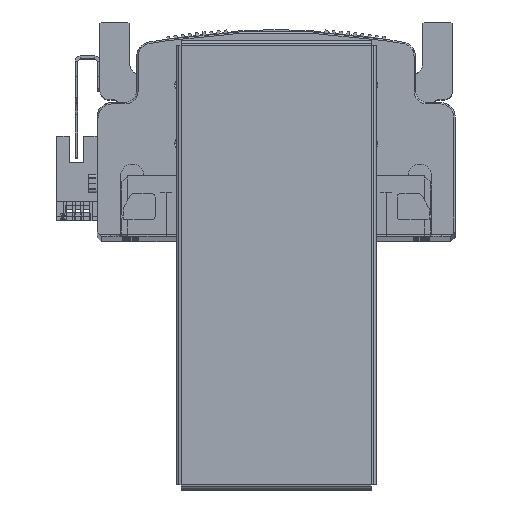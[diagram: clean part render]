
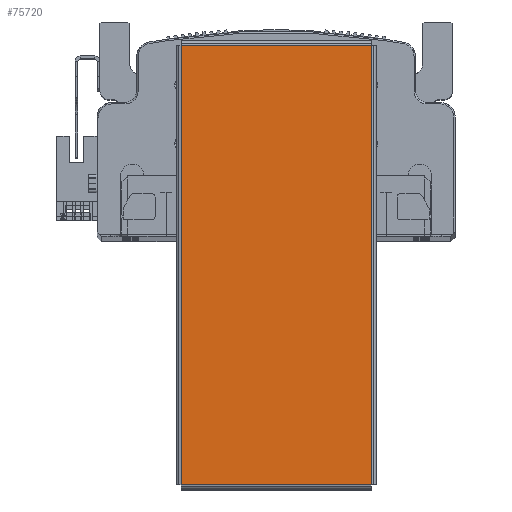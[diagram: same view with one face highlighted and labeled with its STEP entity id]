
A CAD part, top view. The second image highlights one B-rep face of the part: STEP entity #75720.
In plain terms, the highlighted planar face has unit normal (0, 0, 1) as drawn and (0, 0, -1) by its records, which use the part's own axes.
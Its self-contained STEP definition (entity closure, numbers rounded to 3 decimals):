
#3650 = CARTESIAN_POINT ( 'NONE',  ( 74.763, -32.363, -1. ) ) ;
#3708 = CARTESIAN_POINT ( 'NONE',  ( -74.763, 32.363, -1. ) ) ;
#3768 = CARTESIAN_POINT ( 'NONE',  ( -74.763, -32.363, -1. ) ) ;
#3790 = CARTESIAN_POINT ( 'NONE',  ( 74.763, 32.363, -1. ) ) ;
#10984 = EDGE_LOOP ( 'NONE', ( #83725, #83750, #83730, #83747 ) ) ;
#15002 = EDGE_CURVE ( 'NONE', #32229, #32252, #43956, .T. ) ;
#15057 = EDGE_CURVE ( 'NONE', #32167, #32264, #44076, .T. ) ;
#15171 = EDGE_CURVE ( 'NONE', #32252, #32167, #44144, .T. ) ;
#15224 = EDGE_CURVE ( 'NONE', #32264, #32229, #44243, .T. ) ;
#27223 = FACE_OUTER_BOUND ( 'NONE', #10984, .T. ) ;
#32167 = VERTEX_POINT ( 'NONE', #3650 ) ;
#32229 = VERTEX_POINT ( 'NONE', #3708 ) ;
#32252 = VERTEX_POINT ( 'NONE', #3790 ) ;
#32264 = VERTEX_POINT ( 'NONE', #3768 ) ;
#41044 = CARTESIAN_POINT ( 'NONE',  ( -74.793, 32.363, -1. ) ) ;
#41062 = DIRECTION ( 'NONE',  ( 1., 0., 0. ) ) ;
#41269 = DIRECTION ( 'NONE',  ( -1., 0., 0. ) ) ;
#41288 = CARTESIAN_POINT ( 'NONE',  ( 74.793, -32.363, -1. ) ) ;
#41647 = CARTESIAN_POINT ( 'NONE',  ( 74.763, 32.393, -1. ) ) ;
#41658 = DIRECTION ( 'NONE',  ( 0., -1., 0. ) ) ;
#41854 = CARTESIAN_POINT ( 'NONE',  ( -74.763, -32.393, -1. ) ) ;
#41904 = DIRECTION ( 'NONE',  ( 0., 1., 0. ) ) ;
#43956 = LINE ( 'NONE', #41044, #43960 ) ;
#43960 = VECTOR ( 'NONE', #41062, 1000. ) ;
#44076 = LINE ( 'NONE', #41288, #44101 ) ;
#44101 = VECTOR ( 'NONE', #41269, 1000. ) ;
#44144 = LINE ( 'NONE', #41647, #44171 ) ;
#44171 = VECTOR ( 'NONE', #41658, 1000. ) ;
#44243 = LINE ( 'NONE', #41854, #44306 ) ;
#44306 = VECTOR ( 'NONE', #41904, 1000. ) ;
#58001 = AXIS2_PLACEMENT_3D ( 'NONE', #87873, #87854, #87856 ) ;
#75720 = ADVANCED_FACE ( 'NONE', ( #27223 ), #87852, .F. ) ;
#83725 = ORIENTED_EDGE ( 'NONE', *, *, #15171, .T. ) ;
#83730 = ORIENTED_EDGE ( 'NONE', *, *, #15224, .T. ) ;
#83747 = ORIENTED_EDGE ( 'NONE', *, *, #15002, .T. ) ;
#83750 = ORIENTED_EDGE ( 'NONE', *, *, #15057, .T. ) ;
#87852 = PLANE ( 'NONE',  #58001 ) ;
#87854 = DIRECTION ( 'NONE',  ( 0., 0., 1. ) ) ;
#87856 = DIRECTION ( 'NONE',  ( 1., 0., 0. ) ) ;
#87873 = CARTESIAN_POINT ( 'NONE',  ( 0., 0., -1. ) ) ;
